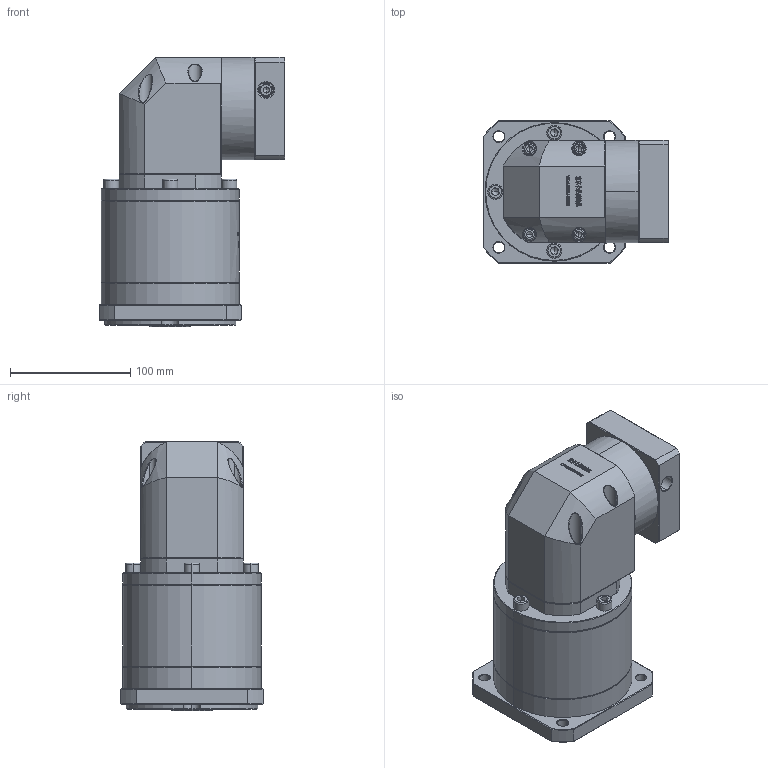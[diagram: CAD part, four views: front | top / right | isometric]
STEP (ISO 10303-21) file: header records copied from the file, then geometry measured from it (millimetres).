
FILE_DESCRIPTION (( 'STEP AP214' ), '1' );
FILE_NAME ('ZFR120A-K25-L3-16-80-100-M6.step', '2023-03-08T05:52:01', ( '' ), ( '' ), 'SwSTEP 2.0', 'SolidWorks 2016', '' );
FILE_SCHEMA (( 'AUTOMOTIVE_DESIGN' ));
Length unit declared in the file: millimetre
Products named in the file (1): ZFR120A-K25-L3-16-80-100-M6
Bounding box: 154.1 x 118 x 223.5 mm (x, y, z)
Volume: 2105455.6 mm3; surface area: 178954.5 mm2
Topology: 6 solids, 6 shells, 2947 faces, 7825 edges, 5026 vertices
Faces by surface type: plane 1569, bspline 616, cylinder 422, cone 326, torus 14
Entity records: 158263 total; most frequent: CARTESIAN_POINT 58407, ORIENTED_EDGE 15562, DIRECTION 11502, EDGE_CURVE 7781, VERTEX_POINT 5026, VECTOR 4870, LINE 4870, AXIS2_PLACEMENT_3D 3316
